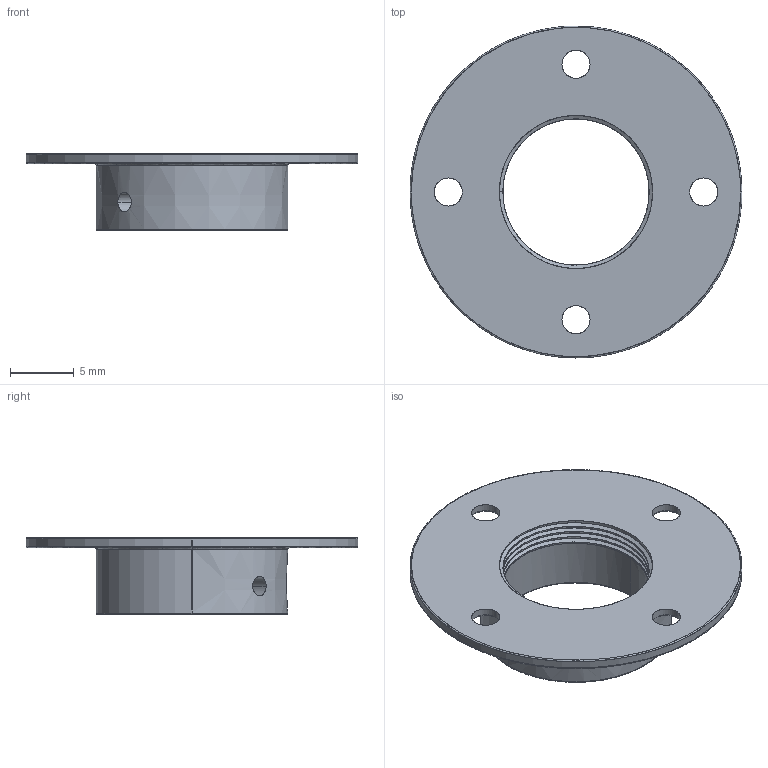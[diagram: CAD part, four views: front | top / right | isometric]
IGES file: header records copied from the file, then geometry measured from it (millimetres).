
Start section: SolidWorks IGES file using analytic representation for surfaces
Bounding box: 26 x 26 x 6 mm (x, y, z)
Surface area: 1395.5 mm2 (no closed solid volume)
Topology: 0 solids, 0 shells, 50 faces, 856 edges, 856 vertices
Faces by surface type: revolution 32, bspline 18
